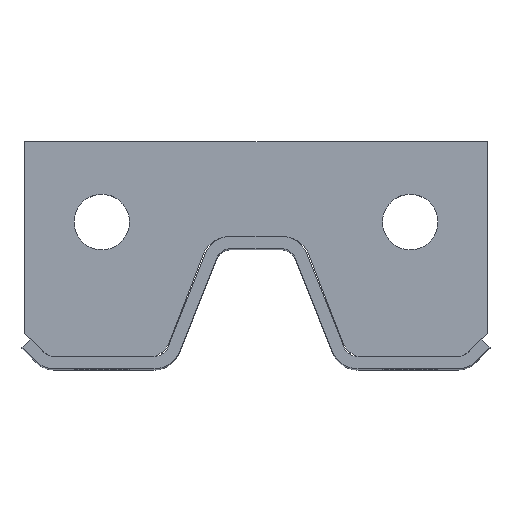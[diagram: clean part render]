
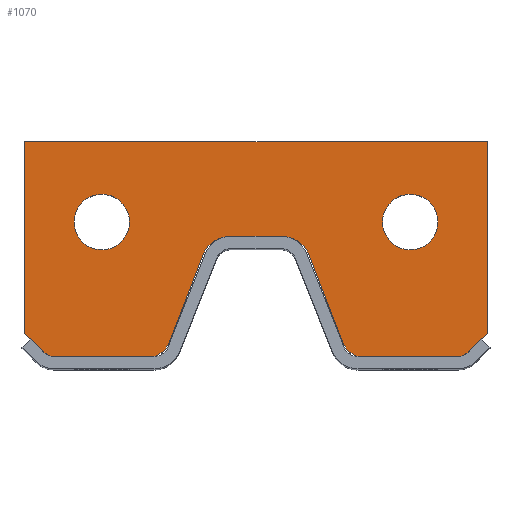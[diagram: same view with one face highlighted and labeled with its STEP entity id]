
A CAD part, top view. The second image highlights one B-rep face of the part: STEP entity #1070.
In plain terms, the highlighted planar face has unit normal (0, 0, 1).
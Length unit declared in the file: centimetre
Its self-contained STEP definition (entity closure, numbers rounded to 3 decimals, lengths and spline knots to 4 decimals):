
#40=FACE_BOUND('',#107,.T.);
#41=FACE_BOUND('',#108,.T.);
#52=FACE_OUTER_BOUND('',#106,.T.);
#106=EDGE_LOOP('',(#716,#717,#718,#719,#720,#721,#722,#723,#724,#725,#726,
#727,#728,#729,#730,#731,#732,#733));
#107=EDGE_LOOP('',(#734));
#108=EDGE_LOOP('',(#735));
#172=CIRCLE('',#1127,0.8);
#173=CIRCLE('',#1128,0.8);
#174=CIRCLE('',#1129,0.8);
#175=CIRCLE('',#1130,0.8);
#176=CIRCLE('',#1131,0.8);
#177=CIRCLE('',#1132,0.8);
#178=CIRCLE('',#1133,0.9);
#179=CIRCLE('',#1134,0.9);
#220=LINE('',#1552,#334);
#221=LINE('',#1556,#335);
#222=LINE('',#1560,#336);
#223=LINE('',#1564,#337);
#224=LINE('',#1566,#338);
#225=LINE('',#1568,#339);
#226=LINE('',#1570,#340);
#227=LINE('',#1572,#341);
#228=LINE('',#1576,#342);
#229=LINE('',#1580,#343);
#230=LINE('',#1584,#344);
#231=LINE('',#1585,#345);
#334=VECTOR('',#1232,0.1);
#335=VECTOR('',#1235,0.1);
#336=VECTOR('',#1238,0.1);
#337=VECTOR('',#1241,0.1);
#338=VECTOR('',#1242,0.1);
#339=VECTOR('',#1243,0.1);
#340=VECTOR('',#1244,0.1);
#341=VECTOR('',#1245,0.1);
#342=VECTOR('',#1248,0.1);
#343=VECTOR('',#1251,0.1);
#344=VECTOR('',#1254,0.1);
#345=VECTOR('',#1255,0.1);
#448=VERTEX_POINT('',#1550);
#449=VERTEX_POINT('',#1551);
#450=VERTEX_POINT('',#1553);
#451=VERTEX_POINT('',#1555);
#452=VERTEX_POINT('',#1557);
#453=VERTEX_POINT('',#1559);
#454=VERTEX_POINT('',#1561);
#455=VERTEX_POINT('',#1563);
#456=VERTEX_POINT('',#1565);
#457=VERTEX_POINT('',#1567);
#458=VERTEX_POINT('',#1569);
#459=VERTEX_POINT('',#1571);
#460=VERTEX_POINT('',#1573);
#461=VERTEX_POINT('',#1575);
#462=VERTEX_POINT('',#1577);
#463=VERTEX_POINT('',#1579);
#464=VERTEX_POINT('',#1581);
#465=VERTEX_POINT('',#1583);
#466=VERTEX_POINT('',#1586);
#467=VERTEX_POINT('',#1588);
#554=EDGE_CURVE('',#448,#449,#220,.T.);
#555=EDGE_CURVE('',#449,#450,#172,.T.);
#556=EDGE_CURVE('',#450,#451,#221,.T.);
#557=EDGE_CURVE('',#451,#452,#173,.T.);
#558=EDGE_CURVE('',#453,#452,#222,.T.);
#559=EDGE_CURVE('',#453,#454,#174,.T.);
#560=EDGE_CURVE('',#454,#455,#223,.T.);
#561=EDGE_CURVE('',#455,#456,#224,.T.);
#562=EDGE_CURVE('',#456,#457,#225,.T.);
#563=EDGE_CURVE('',#457,#458,#226,.T.);
#564=EDGE_CURVE('',#458,#459,#227,.T.);
#565=EDGE_CURVE('',#459,#460,#175,.T.);
#566=EDGE_CURVE('',#461,#460,#228,.T.);
#567=EDGE_CURVE('',#461,#462,#176,.T.);
#568=EDGE_CURVE('',#462,#463,#229,.T.);
#569=EDGE_CURVE('',#463,#464,#177,.T.);
#570=EDGE_CURVE('',#464,#465,#230,.T.);
#571=EDGE_CURVE('',#448,#465,#231,.T.);
#572=EDGE_CURVE('',#466,#466,#178,.T.);
#573=EDGE_CURVE('',#467,#467,#179,.T.);
#716=ORIENTED_EDGE('',*,*,#554,.T.);
#717=ORIENTED_EDGE('',*,*,#555,.T.);
#718=ORIENTED_EDGE('',*,*,#556,.T.);
#719=ORIENTED_EDGE('',*,*,#557,.T.);
#720=ORIENTED_EDGE('',*,*,#558,.F.);
#721=ORIENTED_EDGE('',*,*,#559,.T.);
#722=ORIENTED_EDGE('',*,*,#560,.T.);
#723=ORIENTED_EDGE('',*,*,#561,.T.);
#724=ORIENTED_EDGE('',*,*,#562,.T.);
#725=ORIENTED_EDGE('',*,*,#563,.T.);
#726=ORIENTED_EDGE('',*,*,#564,.T.);
#727=ORIENTED_EDGE('',*,*,#565,.T.);
#728=ORIENTED_EDGE('',*,*,#566,.F.);
#729=ORIENTED_EDGE('',*,*,#567,.T.);
#730=ORIENTED_EDGE('',*,*,#568,.T.);
#731=ORIENTED_EDGE('',*,*,#569,.T.);
#732=ORIENTED_EDGE('',*,*,#570,.T.);
#733=ORIENTED_EDGE('',*,*,#571,.F.);
#734=ORIENTED_EDGE('',*,*,#572,.T.);
#735=ORIENTED_EDGE('',*,*,#573,.T.);
#1040=PLANE('',#1126);
#1070=ADVANCED_FACE('',(#52,#40,#41),#1040,.T.);
#1126=AXIS2_PLACEMENT_3D('',#1549,#1230,#1231);
#1127=AXIS2_PLACEMENT_3D('',#1554,#1233,#1234);
#1128=AXIS2_PLACEMENT_3D('',#1558,#1236,#1237);
#1129=AXIS2_PLACEMENT_3D('',#1562,#1239,#1240);
#1130=AXIS2_PLACEMENT_3D('',#1574,#1246,#1247);
#1131=AXIS2_PLACEMENT_3D('',#1578,#1249,#1250);
#1132=AXIS2_PLACEMENT_3D('',#1582,#1252,#1253);
#1133=AXIS2_PLACEMENT_3D('',#1587,#1256,#1257);
#1134=AXIS2_PLACEMENT_3D('',#1589,#1258,#1259);
#1230=DIRECTION('center_axis',(0.,0.,1.));
#1231=DIRECTION('ref_axis',(1.,0.,0.));
#1232=DIRECTION('',(1.,0.,0.));
#1233=DIRECTION('center_axis',(0.,0.,-1.));
#1234=DIRECTION('ref_axis',(0.566,0.824,0.));
#1235=DIRECTION('',(0.359,-0.933,0.));
#1236=DIRECTION('center_axis',(0.,0.,1.));
#1237=DIRECTION('ref_axis',(-0.566,-0.824,0.));
#1238=DIRECTION('',(-1.,0.,0.));
#1239=DIRECTION('center_axis',(0.,0.,1.));
#1240=DIRECTION('ref_axis',(0.383,-0.924,0.));
#1241=DIRECTION('',(0.707,0.707,0.));
#1242=DIRECTION('',(0.,1.,0.));
#1243=DIRECTION('',(-1.,0.,0.));
#1244=DIRECTION('',(0.,-1.,0.));
#1245=DIRECTION('',(0.707,-0.707,0.));
#1246=DIRECTION('center_axis',(0.,0.,1.));
#1247=DIRECTION('ref_axis',(-0.383,-0.924,0.));
#1248=DIRECTION('',(-1.,0.,0.));
#1249=DIRECTION('center_axis',(0.,0.,1.));
#1250=DIRECTION('ref_axis',(0.566,-0.824,0.));
#1251=DIRECTION('',(0.359,0.933,0.));
#1252=DIRECTION('center_axis',(0.,0.,-1.));
#1253=DIRECTION('ref_axis',(-0.566,0.824,0.));
#1254=DIRECTION('',(1.,0.,0.));
#1255=DIRECTION('',(-1.,0.,0.));
#1256=DIRECTION('center_axis',(0.,0.,-1.));
#1257=DIRECTION('ref_axis',(1.,0.,0.));
#1258=DIRECTION('center_axis',(0.,0.,-1.));
#1259=DIRECTION('ref_axis',(1.,0.,0.));
#1549=CARTESIAN_POINT('Origin',(-82.4958,220.4396,1.));
#1550=CARTESIAN_POINT('',(-85.1851,219.9396,1.));
#1551=CARTESIAN_POINT('',(-85.0452,219.9396,1.));
#1552=CARTESIAN_POINT('',(-86.9463,219.9396,1.));
#1553=CARTESIAN_POINT('',(-84.2985,219.4268,1.));
#1554=CARTESIAN_POINT('Origin',(-85.0452,219.1396,1.));
#1555=CARTESIAN_POINT('',(-83.193,216.5524,1.));
#1556=CARTESIAN_POINT('',(-84.2985,219.4268,1.));
#1557=CARTESIAN_POINT('',(-82.4463,216.0396,1.));
#1558=CARTESIAN_POINT('Origin',(-82.4463,216.8396,1.));
#1559=CARTESIAN_POINT('',(-79.6271,216.0396,1.));
#1560=CARTESIAN_POINT('',(-82.5904,216.0396,1.));
#1561=CARTESIAN_POINT('',(-79.0614,216.2739,1.));
#1562=CARTESIAN_POINT('Origin',(-79.6271,216.8396,1.));
#1563=CARTESIAN_POINT('',(-78.4958,216.8396,1.));
#1564=CARTESIAN_POINT('',(-79.0614,216.2739,1.));
#1565=CARTESIAN_POINT('',(-78.4958,223.0396,1.));
#1566=CARTESIAN_POINT('',(-78.4958,216.8396,1.));
#1567=CARTESIAN_POINT('',(-93.4958,223.0396,1.));
#1568=CARTESIAN_POINT('',(-78.4958,223.0396,1.));
#1569=CARTESIAN_POINT('',(-93.4958,216.8396,1.));
#1570=CARTESIAN_POINT('',(-93.4958,223.0396,1.));
#1571=CARTESIAN_POINT('',(-92.9301,216.2739,1.));
#1572=CARTESIAN_POINT('',(-93.4958,216.8396,1.));
#1573=CARTESIAN_POINT('',(-92.3644,216.0396,1.));
#1574=CARTESIAN_POINT('Origin',(-92.3644,216.8396,1.));
#1575=CARTESIAN_POINT('',(-89.5452,216.0396,1.));
#1576=CARTESIAN_POINT('',(-87.5084,216.0396,1.));
#1577=CARTESIAN_POINT('',(-88.7985,216.5524,1.));
#1578=CARTESIAN_POINT('Origin',(-89.5452,216.8396,1.));
#1579=CARTESIAN_POINT('',(-87.693,219.4268,1.));
#1580=CARTESIAN_POINT('',(-88.7985,216.5524,1.));
#1581=CARTESIAN_POINT('',(-86.9463,219.9396,1.));
#1582=CARTESIAN_POINT('Origin',(-86.9463,219.1396,1.));
#1583=CARTESIAN_POINT('',(-86.8064,219.9396,1.));
#1584=CARTESIAN_POINT('',(-86.9463,219.9396,1.));
#1585=CARTESIAN_POINT('',(-84.6511,219.9396,1.));
#1586=CARTESIAN_POINT('',(-91.8958,220.4396,1.));
#1587=CARTESIAN_POINT('Origin',(-90.9958,220.4396,1.));
#1588=CARTESIAN_POINT('',(-81.8958,220.4396,1.));
#1589=CARTESIAN_POINT('Origin',(-80.9958,220.4396,1.));
